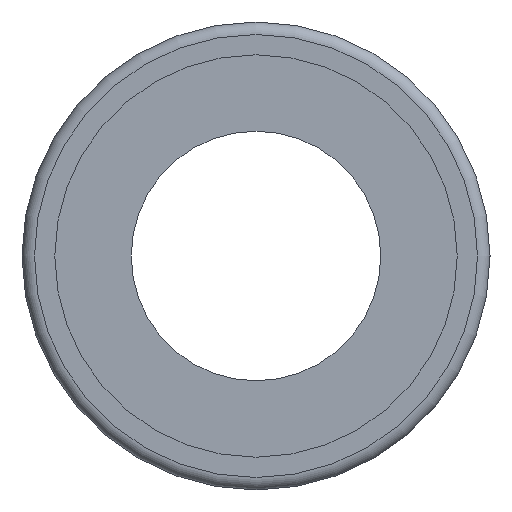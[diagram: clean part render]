
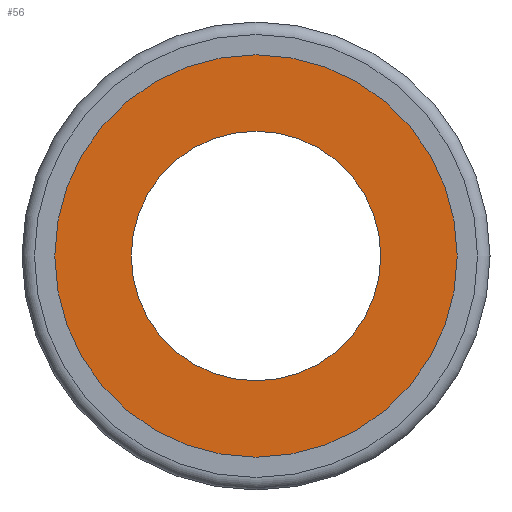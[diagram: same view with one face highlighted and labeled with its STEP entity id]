
A CAD part, left-side view. The second image highlights one B-rep face of the part: STEP entity #56.
In plain terms, the highlighted planar face has unit normal (-1, 0, 0).
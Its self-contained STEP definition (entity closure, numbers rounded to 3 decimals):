
#56 = ADVANCED_FACE( '', ( #123, #124 ), #125, .T. );
#123 = FACE_BOUND( '', #202, .T. );
#124 = FACE_OUTER_BOUND( '', #203, .T. );
#125 = PLANE( '', #204 );
#202 = EDGE_LOOP( '', ( #289 ) );
#203 = EDGE_LOOP( '', ( #290 ) );
#204 = AXIS2_PLACEMENT_3D( '', #291, #292, #293 );
#289 = ORIENTED_EDGE( '', *, *, #374, .F. );
#290 = ORIENTED_EDGE( '', *, *, #361, .T. );
#291 = CARTESIAN_POINT( '', ( 2.25, 5.225, 0. ) );
#292 = DIRECTION( '', ( -1., 0., 0. ) );
#293 = DIRECTION( '', ( 0., 1., 0. ) );
#361 = EDGE_CURVE( '', #401, #401, #402, .T. );
#374 = EDGE_CURVE( '', #422, #422, #423, .T. );
#401 = VERTEX_POINT( '', #455 );
#402 = CIRCLE( '', #456, 6.45 );
#422 = VERTEX_POINT( '', #476 );
#423 = CIRCLE( '', #477, 4. );
#455 = CARTESIAN_POINT( '', ( 2.25, 0., 6.45 ) );
#456 = AXIS2_PLACEMENT_3D( '', #510, #511, #512 );
#476 = CARTESIAN_POINT( '', ( 2.25, 0., 4. ) );
#477 = AXIS2_PLACEMENT_3D( '', #534, #535, #536 );
#510 = CARTESIAN_POINT( '', ( 2.25, 0., 0. ) );
#511 = DIRECTION( '', ( -1., 0., 0. ) );
#512 = DIRECTION( '', ( 0., 0., 1. ) );
#534 = CARTESIAN_POINT( '', ( 2.25, 0., 0. ) );
#535 = DIRECTION( '', ( -1., 0., 0. ) );
#536 = DIRECTION( '', ( 0., 0., 1. ) );
